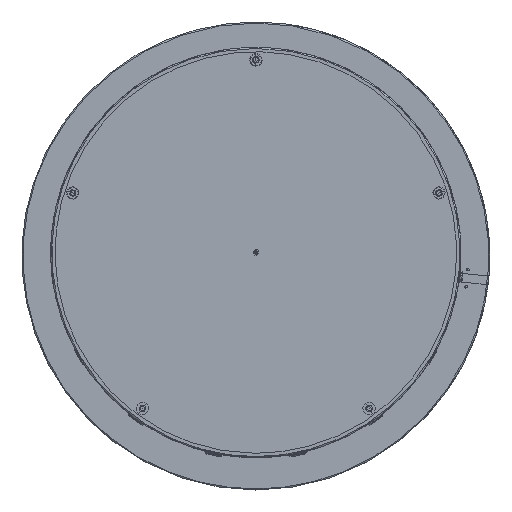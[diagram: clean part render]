
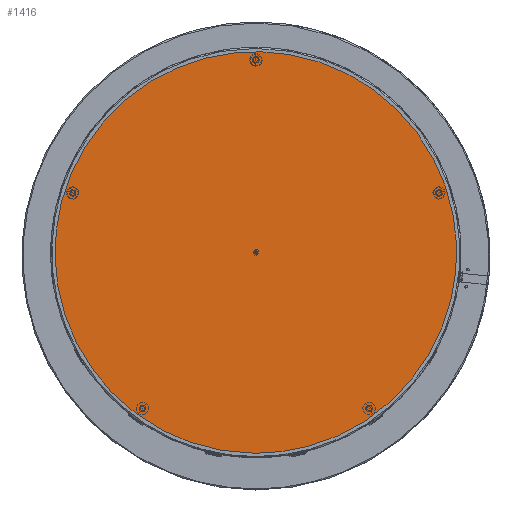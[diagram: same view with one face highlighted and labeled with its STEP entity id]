
A CAD part, top view. The second image highlights one B-rep face of the part: STEP entity #1416.
In plain terms, the highlighted planar face has unit normal (0, 0, 1).
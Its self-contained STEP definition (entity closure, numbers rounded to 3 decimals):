
#1416=ADVANCED_FACE('',(#6207),#63403,.T.);
#6207=FACE_OUTER_BOUND('',#10999,.T.);
#10999=EDGE_LOOP('',(#17010));
#17010=ORIENTED_EDGE('',*,*,#37167,.F.);
#37167=EDGE_CURVE('',#57765,#57765,#54689,.T.);
#54689=(
BOUNDED_CURVE()
B_SPLINE_CURVE(2,(#78120,#78121,#78122,#78123,#78124,#78125,#78126,#78127,
#78128),.UNSPECIFIED.,.T.,.F.)
B_SPLINE_CURVE_WITH_KNOTS((3,2,2,2,3),(-579.624,-289.812,
0.,289.812,579.624),.UNSPECIFIED.)
CURVE()
GEOMETRIC_REPRESENTATION_ITEM()
RATIONAL_B_SPLINE_CURVE((1.,0.707,1.,0.707,1.,0.707,
1.,0.707,1.))
REPRESENTATION_ITEM('')
);
#57765=VERTEX_POINT('',#78067);
#63403=PLANE('',#67944);
#67944=AXIS2_PLACEMENT_3D('',#78057,#70110,$);
#70110=DIRECTION('',(0.,0.,1.));
#78057=CARTESIAN_POINT('',(-188.19,191.94,1856.5));
#78067=CARTESIAN_POINT('',(0.,-180.75,1856.5));
#78120=CARTESIAN_POINT('',(0.,-180.75,1856.5));
#78121=CARTESIAN_POINT('',(-184.5,-180.75,1856.5));
#78122=CARTESIAN_POINT('',(-184.5,3.75,1856.5));
#78123=CARTESIAN_POINT('',(-184.5,188.25,1856.5));
#78124=CARTESIAN_POINT('',(0.,188.25,1856.5));
#78125=CARTESIAN_POINT('',(184.5,188.25,1856.5));
#78126=CARTESIAN_POINT('',(184.5,3.75,1856.5));
#78127=CARTESIAN_POINT('',(184.5,-180.75,1856.5));
#78128=CARTESIAN_POINT('',(0.,-180.75,1856.5));
